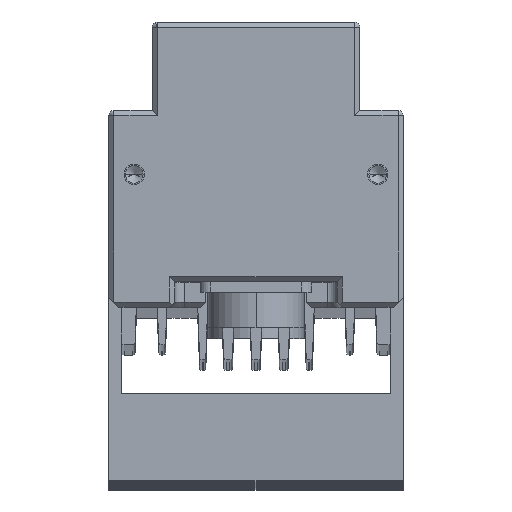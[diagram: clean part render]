
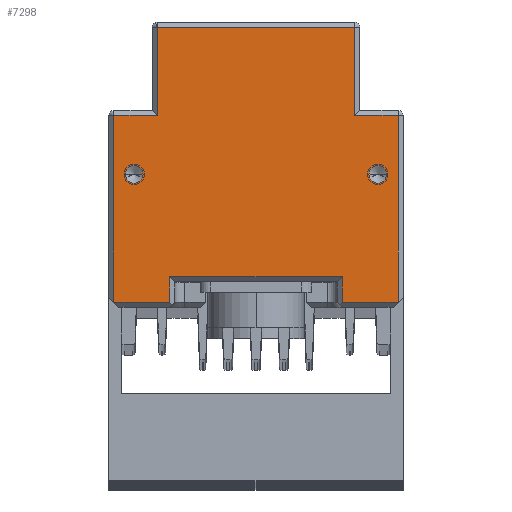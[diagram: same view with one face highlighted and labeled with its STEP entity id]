
A CAD part, top view. The second image highlights one B-rep face of the part: STEP entity #7298.
In plain terms, the highlighted planar face has unit normal (0, 0, 1).
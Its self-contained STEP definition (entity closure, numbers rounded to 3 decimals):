
#761=DIRECTION('',(1.,0.,0.));
#762=VECTOR('',#761,11.);
#763=CARTESIAN_POINT('',(-28.,-9.406,635.));
#764=LINE('',#763,#762);
#765=DIRECTION('',(0.,-1.,0.));
#766=VECTOR('',#765,36.8);
#767=CARTESIAN_POINT('',(-28.,27.394,635.));
#768=LINE('',#767,#766);
#769=DIRECTION('',(-1.,0.,0.));
#770=VECTOR('',#769,8.55);
#771=CARTESIAN_POINT('',(-19.45,27.394,635.));
#772=LINE('',#771,#770);
#773=DIRECTION('',(0.,-1.,0.));
#774=VECTOR('',#773,17.4);
#775=CARTESIAN_POINT('',(-19.45,44.794,635.));
#776=LINE('',#775,#774);
#777=DIRECTION('',(-1.,0.,0.));
#778=VECTOR('',#777,38.899);
#779=CARTESIAN_POINT('',(19.45,44.794,635.));
#780=LINE('',#779,#778);
#781=DIRECTION('',(0.,1.,0.));
#782=VECTOR('',#781,17.4);
#783=CARTESIAN_POINT('',(19.45,27.394,635.));
#784=LINE('',#783,#782);
#785=DIRECTION('',(-1.,0.,0.));
#786=VECTOR('',#785,8.55);
#787=CARTESIAN_POINT('',(28.,27.394,635.));
#788=LINE('',#787,#786);
#789=DIRECTION('',(0.,1.,0.));
#790=VECTOR('',#789,36.8);
#791=CARTESIAN_POINT('',(28.,-9.406,635.));
#792=LINE('',#791,#790);
#793=DIRECTION('',(1.,0.,0.));
#794=VECTOR('',#793,11.);
#795=CARTESIAN_POINT('',(17.,-9.406,635.));
#796=LINE('',#795,#794);
#797=DIRECTION('',(0.,-1.,0.));
#798=VECTOR('',#797,5.);
#799=CARTESIAN_POINT('',(17.,-4.406,635.));
#800=LINE('',#799,#798);
#801=DIRECTION('',(-1.,0.,0.));
#802=VECTOR('',#801,34.);
#803=CARTESIAN_POINT('',(17.,-4.406,635.));
#804=LINE('',#803,#802);
#805=DIRECTION('',(0.,1.,0.));
#806=VECTOR('',#805,5.);
#807=CARTESIAN_POINT('',(-17.,-9.406,635.));
#808=LINE('',#807,#806);
#809=CARTESIAN_POINT('',(24.,15.794,635.));
#810=DIRECTION('',(0.,0.,-1.));
#811=DIRECTION('',(1.,0.,0.));
#812=AXIS2_PLACEMENT_3D('',#809,#810,#811);
#814=CARTESIAN_POINT('',(24.,15.794,635.));
#815=DIRECTION('',(0.,0.,-1.));
#816=DIRECTION('',(-1.,0.,0.));
#817=AXIS2_PLACEMENT_3D('',#814,#815,#816);
#819=CARTESIAN_POINT('',(-24.,15.794,635.));
#820=DIRECTION('',(0.,0.,-1.));
#821=DIRECTION('',(1.,0.,0.));
#822=AXIS2_PLACEMENT_3D('',#819,#820,#821);
#824=CARTESIAN_POINT('',(-24.,15.794,635.));
#825=DIRECTION('',(0.,0.,-1.));
#826=DIRECTION('',(-1.,0.,0.));
#827=AXIS2_PLACEMENT_3D('',#824,#825,#826);
#5349=CARTESIAN_POINT('',(-28.,-9.406,635.));
#5350=CARTESIAN_POINT('',(-17.,-9.406,635.));
#5351=VERTEX_POINT('',#5349);
#5352=VERTEX_POINT('',#5350);
#5361=CARTESIAN_POINT('',(-28.,27.394,635.));
#5362=VERTEX_POINT('',#5361);
#5365=CARTESIAN_POINT('',(-19.45,27.394,635.));
#5366=VERTEX_POINT('',#5365);
#5369=CARTESIAN_POINT('',(19.45,27.394,635.));
#5370=CARTESIAN_POINT('',(19.45,44.794,635.));
#5371=VERTEX_POINT('',#5369);
#5372=VERTEX_POINT('',#5370);
#5379=CARTESIAN_POINT('',(-19.45,44.794,635.));
#5380=VERTEX_POINT('',#5379);
#5385=CARTESIAN_POINT('',(28.,-9.406,635.));
#5386=CARTESIAN_POINT('',(28.,27.394,635.));
#5387=VERTEX_POINT('',#5385);
#5388=VERTEX_POINT('',#5386);
#5399=CARTESIAN_POINT('',(17.,-9.406,635.));
#5400=VERTEX_POINT('',#5399);
#5421=CARTESIAN_POINT('',(17.,-4.406,635.));
#5422=VERTEX_POINT('',#5421);
#5423=CARTESIAN_POINT('',(-17.,-4.406,635.));
#5424=VERTEX_POINT('',#5423);
#6055=CARTESIAN_POINT('',(25.75,15.794,635.));
#6056=VERTEX_POINT('',#6055);
#6057=CARTESIAN_POINT('',(22.25,15.794,635.));
#6058=VERTEX_POINT('',#6057);
#6065=CARTESIAN_POINT('',(-22.25,15.794,635.));
#6066=VERTEX_POINT('',#6065);
#6067=CARTESIAN_POINT('',(-25.75,15.794,635.));
#6068=VERTEX_POINT('',#6067);
#7256=CARTESIAN_POINT('',(0.,0.,635.));
#7257=DIRECTION('',(0.,0.,1.));
#7258=DIRECTION('',(1.,0.,0.));
#7259=AXIS2_PLACEMENT_3D('',#7256,#7257,#7258);
#7260=PLANE('',#7259);
#7262=ORIENTED_EDGE('',*,*,#7261,.F.);
#7264=ORIENTED_EDGE('',*,*,#7263,.F.);
#7266=ORIENTED_EDGE('',*,*,#7265,.F.);
#7268=ORIENTED_EDGE('',*,*,#7267,.F.);
#7270=ORIENTED_EDGE('',*,*,#7269,.F.);
#7272=ORIENTED_EDGE('',*,*,#7271,.F.);
#7274=ORIENTED_EDGE('',*,*,#7273,.F.);
#7276=ORIENTED_EDGE('',*,*,#7275,.F.);
#7278=ORIENTED_EDGE('',*,*,#7277,.F.);
#7280=ORIENTED_EDGE('',*,*,#7279,.F.);
#7282=ORIENTED_EDGE('',*,*,#7281,.T.);
#7283=ORIENTED_EDGE('',*,*,#7245,.F.);
#7284=EDGE_LOOP('',(#7262,#7264,#7266,#7268,#7270,#7272,#7274,#7276,#7278,#7280,
#7282,#7283));
#7285=FACE_OUTER_BOUND('',#7284,.F.);
#7287=ORIENTED_EDGE('',*,*,#7286,.F.);
#7289=ORIENTED_EDGE('',*,*,#7288,.F.);
#7290=EDGE_LOOP('',(#7287,#7289));
#7291=FACE_BOUND('',#7290,.F.);
#7293=ORIENTED_EDGE('',*,*,#7292,.F.);
#7295=ORIENTED_EDGE('',*,*,#7294,.F.);
#7296=EDGE_LOOP('',(#7293,#7295));
#7297=FACE_BOUND('',#7296,.F.);
#813=CIRCLE('',#812,1.75);
#818=CIRCLE('',#817,1.75);
#823=CIRCLE('',#822,1.75);
#828=CIRCLE('',#827,1.75);
#7245=EDGE_CURVE('',#5352,#5424,#808,.T.);
#7261=EDGE_CURVE('',#5351,#5352,#764,.T.);
#7263=EDGE_CURVE('',#5362,#5351,#768,.T.);
#7265=EDGE_CURVE('',#5366,#5362,#772,.T.);
#7267=EDGE_CURVE('',#5380,#5366,#776,.T.);
#7269=EDGE_CURVE('',#5372,#5380,#780,.T.);
#7271=EDGE_CURVE('',#5371,#5372,#784,.T.);
#7273=EDGE_CURVE('',#5388,#5371,#788,.T.);
#7275=EDGE_CURVE('',#5387,#5388,#792,.T.);
#7277=EDGE_CURVE('',#5400,#5387,#796,.T.);
#7279=EDGE_CURVE('',#5422,#5400,#800,.T.);
#7281=EDGE_CURVE('',#5422,#5424,#804,.T.);
#7286=EDGE_CURVE('',#6056,#6058,#813,.T.);
#7288=EDGE_CURVE('',#6058,#6056,#818,.T.);
#7292=EDGE_CURVE('',#6066,#6068,#823,.T.);
#7294=EDGE_CURVE('',#6068,#6066,#828,.T.);
#7298=ADVANCED_FACE('',(#7285,#7291,#7297),#7260,.T.);
